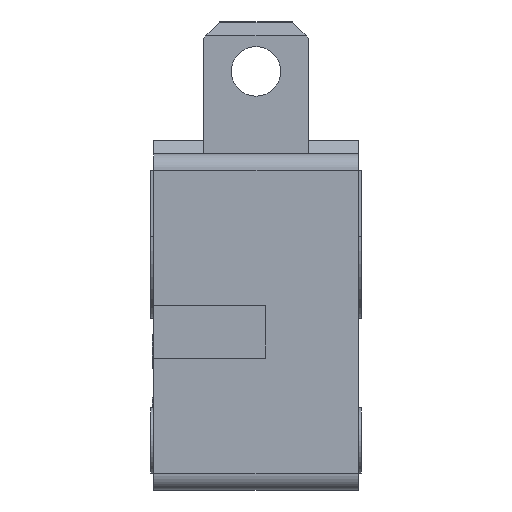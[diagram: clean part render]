
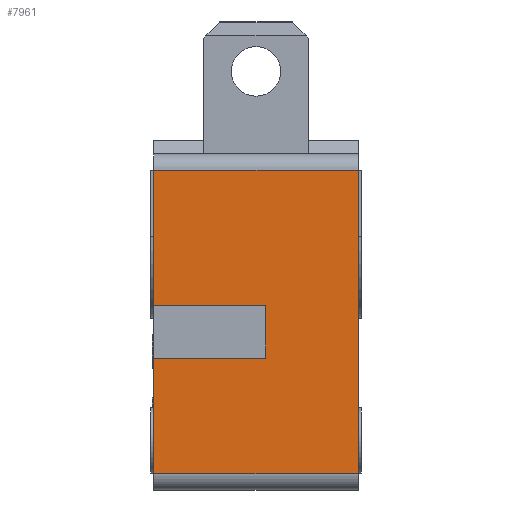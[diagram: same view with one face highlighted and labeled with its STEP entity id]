
A CAD part, front view. The second image highlights one B-rep face of the part: STEP entity #7961.
In plain terms, the highlighted planar face has unit normal (0, -1, 0).
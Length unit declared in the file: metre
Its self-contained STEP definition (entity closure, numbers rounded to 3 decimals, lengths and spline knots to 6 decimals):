
#3107=ORIENTED_EDGE('',*,*,#4315,.F.);
#3108=ORIENTED_EDGE('',*,*,#4302,.T.);
#3109=ORIENTED_EDGE('',*,*,#4310,.T.);
#3110=ORIENTED_EDGE('',*,*,#4305,.T.);
#3111=ORIENTED_EDGE('',*,*,#4306,.F.);
#3112=ORIENTED_EDGE('',*,*,#4309,.F.);
#3113=ORIENTED_EDGE('',*,*,#4312,.T.);
#3114=ORIENTED_EDGE('',*,*,#4314,.F.);
#4302=EDGE_CURVE('',#5108,#5109,#5692,.T.);
#4305=EDGE_CURVE('',#5110,#5111,#5695,.T.);
#4306=EDGE_CURVE('',#5112,#5111,#5696,.T.);
#4309=EDGE_CURVE('',#5113,#5112,#5699,.T.);
#4310=EDGE_CURVE('',#5109,#5110,#5700,.T.);
#4312=EDGE_CURVE('',#5113,#5114,#5701,.T.);
#4314=EDGE_CURVE('',#5115,#5114,#5702,.T.);
#4315=EDGE_CURVE('',#5108,#5115,#5703,.T.);
#5108=VERTEX_POINT('',#14102);
#5109=VERTEX_POINT('',#14104);
#5110=VERTEX_POINT('',#14108);
#5111=VERTEX_POINT('',#14110);
#5112=VERTEX_POINT('',#14114);
#5113=VERTEX_POINT('',#14118);
#5114=VERTEX_POINT('',#14123);
#5115=VERTEX_POINT('',#14127);
#5692=LINE('',#14105,#6286);
#5695=LINE('',#14111,#6289);
#5696=LINE('',#14113,#6290);
#5699=LINE('',#14119,#6293);
#5700=LINE('',#14121,#6294);
#5701=LINE('',#14124,#6295);
#5702=LINE('',#14128,#6296);
#5703=LINE('',#14130,#6297);
#6286=VECTOR('',#10976,1.);
#6289=VECTOR('',#10981,1.);
#6290=VECTOR('',#10984,1.);
#6293=VECTOR('',#10989,1.);
#6294=VECTOR('',#10992,1.);
#6295=VECTOR('',#10995,1.);
#6296=VECTOR('',#11000,1.);
#6297=VECTOR('',#11003,1.);
#6805=EDGE_LOOP('',(#3107,#3108,#3109,#3110,#3111,#3112,#3113,#3114));
#7306=FACE_BOUND('',#6805,.T.);
#7526=PLANE('',#8795);
#7961=ADVANCED_FACE('',(#7306),#7526,.T.);
#8795=AXIS2_PLACEMENT_3D('',#14131,#11004,#11005);
#10976=DIRECTION('',(-1.,0.,0.));
#10981=DIRECTION('',(1.,0.,0.));
#10984=DIRECTION('',(0.,0.,1.));
#10989=DIRECTION('',(1.,0.,0.));
#10992=DIRECTION('',(0.,0.,-1.));
#10995=DIRECTION('',(0.,0.,-1.));
#11000=DIRECTION('',(-1.,0.,0.));
#11003=DIRECTION('',(0.,0.,-1.));
#11004=DIRECTION('',(0.,-1.,0.));
#11005=DIRECTION('',(0.,0.,-1.));
#14102=CARTESIAN_POINT('',(-0.054327,0.041661,0.187917));
#14104=CARTESIAN_POINT('',(-0.060527,0.041661,0.187917));
#14105=CARTESIAN_POINT('',(-0.054327,0.041661,0.187917));
#14108=CARTESIAN_POINT('',(-0.060527,0.041661,0.183817));
#14110=CARTESIAN_POINT('',(-0.057127,0.041661,0.183817));
#14111=CARTESIAN_POINT('',(-0.060527,0.041661,0.183817));
#14113=CARTESIAN_POINT('',(-0.057127,0.041661,0.182217));
#14114=CARTESIAN_POINT('',(-0.057127,0.041661,0.182217));
#14118=CARTESIAN_POINT('',(-0.060527,0.041661,0.182217));
#14119=CARTESIAN_POINT('',(-0.060527,0.041661,0.182217));
#14121=CARTESIAN_POINT('',(-0.060527,0.041661,0.187917));
#14123=CARTESIAN_POINT('',(-0.060527,0.041661,0.178717));
#14124=CARTESIAN_POINT('',(-0.060527,0.041661,0.187917));
#14127=CARTESIAN_POINT('',(-0.054327,0.041661,0.178717));
#14128=CARTESIAN_POINT('',(-0.054327,0.041661,0.178717));
#14130=CARTESIAN_POINT('',(-0.054327,0.041661,0.187917));
#14131=CARTESIAN_POINT('',(-0.054327,0.041661,0.187917));
